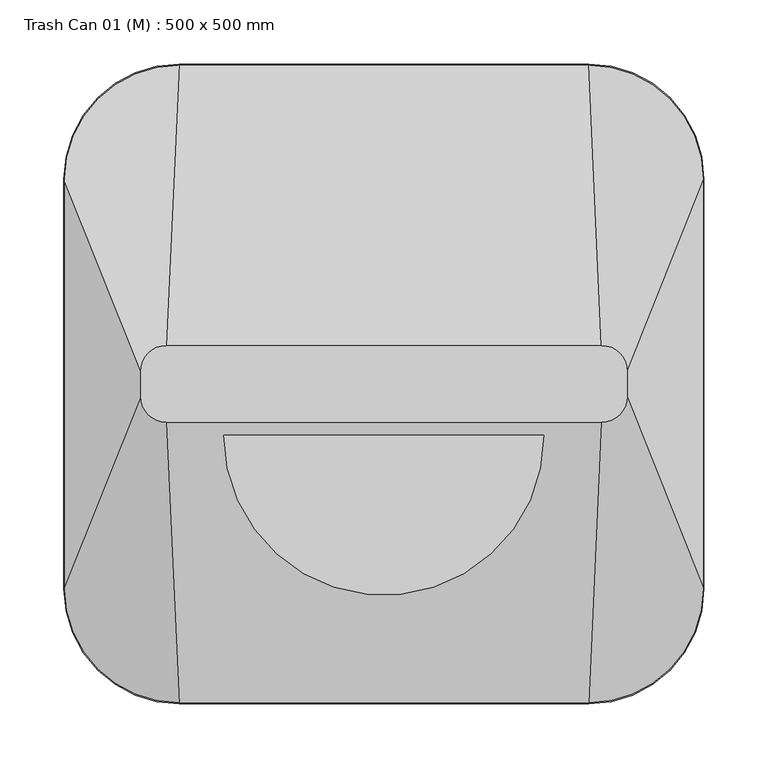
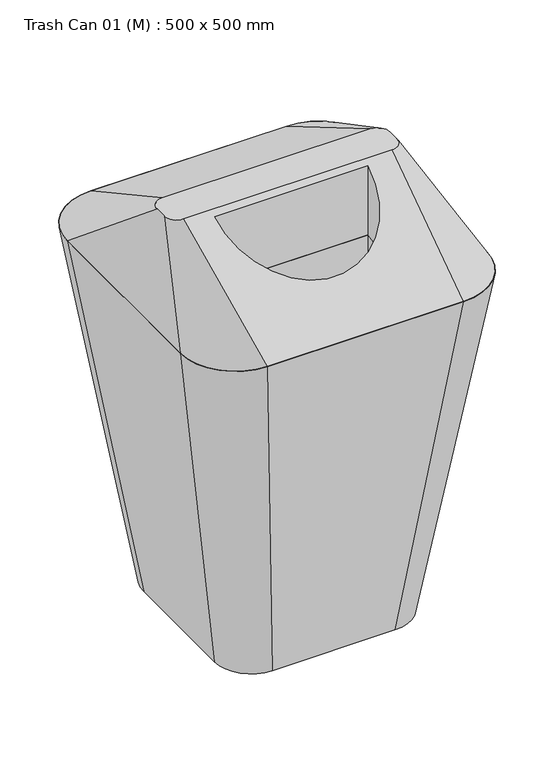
"""IFC4 building model written with IfcOpenShell, lengths in millimetres: proxy geometry, Trash Can 01 (M) : 500 x 500 mm."""

from ifc_helpers import new_model, si_unit, frame, origin, place, context, project, spatial, polyline, circle_curve, ellipse_curve, source, transform, mapped, element, save
from ifc_brep_helpers import plane_surface, revolved_surface, spline_surface, advanced_brep


def trash_can_01_m_500_x_500_mm_0c5a7a72(model_context):
    return source(origin(), model_context, "Body", "AdvancedBrep", [
        advanced_brep(
        [(160.0, 250.0, 600.0), (-160.0, 250.0, 600.0), (-250.0, 160.0, 600.0), (-250.0, -160.0, 600.0), (-160.0, -250.0, 600.0), (160.0, -250.0, 600.0), (250.0, -160.0, 600.0), (250.0, 160.0, 600.0), (-125.0, -40.0, 600.0), (125.0, -40.0, 600.0), (100.0, 160.0, 0.0), (160.0, 100.0, 0.0), (160.0, -100.0, 0.0), (100.0, -160.0, 0.0), (-100.0, -160.0, 0.0), (-160.0, -100.0, 0.0), (-160.0, 100.0, 0.0), (-100.0, 160.0, 0.0), (-125.0, -40.0, 100.0), (125.0, -40.0, 100.0)],
        [
            (0, 1),
            (1, 2, circle_curve(frame((-160.0, 160.0, 600.0), z_axis=(0.0, 0.0, 1.0), x_axis=(1.0, 0.0, 0.0)), 90.0)),
            (2, 3),
            (3, 4, circle_curve(frame((-160.0, -160.0, 600.0), z_axis=(0.0, 0.0, 1.0), x_axis=(1.0, 0.0, 0.0)), 90.0)),
            (4, 5),
            (5, 6, circle_curve(frame((160.0, -160.0, 600.0), z_axis=(0.0, 0.0, 1.0), x_axis=(-1.0, 0.0, 0.0)), 90.0)),
            (6, 7),
            (7, 0, circle_curve(frame((160.0, 160.0, 600.0), z_axis=(0.0, 0.0, 1.0), x_axis=(-1.0, 0.0, 0.0)), 90.0)),
            (8, 9),
            (9, 8, circle_curve(frame((0.0, -40.0, 600.0), z_axis=(0.0, 0.0, -1.0), x_axis=(1.0, 0.0, 0.0)), 125.0)),
            (10, 11, circle_curve(frame((100.0, 100.0, 0.0), z_axis=(0.0, 0.0, -1.0), x_axis=(-1.0, 0.0, 0.0)), 60.0)),
            (11, 12),
            (12, 13, circle_curve(frame((100.0, -100.0, 0.0), z_axis=(0.0, 0.0, -1.0), x_axis=(-1.0, 0.0, 0.0)), 60.0)),
            (13, 14),
            (14, 15, circle_curve(frame((-100.0, -100.0, 0.0), z_axis=(0.0, 0.0, -1.0), x_axis=(1.0, 0.0, 0.0)), 60.0)),
            (15, 16),
            (16, 17, circle_curve(frame((-100.0, 100.0, 0.0), z_axis=(0.0, 0.0, -1.0), x_axis=(1.0, 0.0, 0.0)), 60.0)),
            (17, 10),
            (0, 10),
            (17, 1),
            (16, 2),
            (15, 3),
            (14, 4),
            (13, 5),
            (12, 6),
            (11, 7),
            (18, 19, circle_curve(frame((0.0, -40.0, 100.0), z_axis=(0.0, 0.0, 1.0), x_axis=(1.0, 0.0, 0.0)), 125.0)),
            (19, 18),
            (19, 9),
            (8, 18),
        ],
        [
            plane_surface(frame((0.0, 0.0, 600.0), z_axis=(0.0, 0.0, 1.0), x_axis=(-1.0, 0.0, 0.0))),
            plane_surface(frame((0.0, 0.0, 0.0), z_axis=(0.0, 0.0, -1.0), x_axis=(-1.0, 0.0, 0.0))),
            plane_surface(frame((0.0, 160.0, 0.0), z_axis=(0.0, 0.9889363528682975, -0.14834045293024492), x_axis=(-1.0, 0.0, 0.0))),
            spline_surface(2, 1, [[(-100.0, 160.0, 0.0), (-160.0, 250.0, 600.0)], [(-160.0, 160.0, 0.0), (-250.0, 250.0, 600.0)], [(-160.0, 100.0, 0.0), (-250.0, 160.0, 600.0)]], [3, 3], [2, 2], [0.0, 1.0], [0.0, 1.0], weights=[[1.0, 1.0], [0.7071067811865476, 0.7071067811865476], [1.0, 1.0]]),
            plane_surface(frame((-160.0, 0.0, 0.0), z_axis=(-0.9889363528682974, 0.0, -0.1483404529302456), x_axis=(0.0, -1.0, 0.0))),
            spline_surface(2, 1, [[(-160.0, -100.0, 0.0), (-250.0, -160.0, 600.0)], [(-160.0, -160.0, 0.0), (-250.0, -250.0, 600.0)], [(-100.0, -160.0, 0.0), (-160.0, -250.0, 600.0)]], [3, 3], [2, 2], [0.0, 1.0], [0.0, 1.0], weights=[[1.0, 1.0], [0.7071067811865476, 0.7071067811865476], [1.0, 1.0]]),
            plane_surface(frame((0.0, -160.0, 0.0), z_axis=(0.0, -0.9889363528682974, -0.1483404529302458), x_axis=(1.0, 0.0, 0.0))),
            spline_surface(2, 1, [[(100.0, -160.0, 0.0), (160.0, -250.0, 600.0)], [(160.0, -160.0, 0.0), (250.0, -250.0, 600.0)], [(160.0, -100.0, 0.0), (250.0, -160.0, 600.0)]], [3, 3], [2, 2], [0.0, 1.0], [0.0, 1.0], weights=[[1.0, 1.0], [0.7071067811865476, 0.7071067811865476], [1.0, 1.0]]),
            plane_surface(frame((160.0, 0.0, 0.0), z_axis=(0.9889363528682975, 0.0, -0.14834045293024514), x_axis=(0.0, 1.0, 0.0))),
            spline_surface(2, 1, [[(160.0, 100.0, 0.0), (250.0, 160.0, 600.0)], [(160.0, 160.0, 0.0), (250.0, 250.0, 600.0)], [(100.0, 160.0, 0.0), (160.0, 250.0, 600.0)]], [3, 3], [2, 2], [0.0, 1.0], [0.0, 1.0], weights=[[1.0, 1.0], [0.7071067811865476, 0.7071067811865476], [1.0, 1.0]]),
            plane_surface(frame((0.0, -40.0, 100.0), z_axis=(0.0, 0.0, 1.0), x_axis=(1.0, 0.0, 0.0))),
            plane_surface(frame((-125.0, -40.0, 100.0), z_axis=(0.0, -1.0, 0.0), x_axis=(0.0, 0.0, 1.0))),
            revolved_surface(polyline([(125.0, -40.0, 100.0), (125.0, -40.0, 600.0)]), (0.0, -40.0, 725.0), (0.0, 0.0, -1.0)),
        ],
        [
            (0, [[1, 2, 3, 4, 5, 6, 7, 8], [9, 10]]),
            (1, [[11, 12, 13, 14, 15, 16, 17, 18]]),
            (2, [[-1, 19, -18, 20]]),
            (3, [[-2, -20, -17, 21]]),
            (4, [[-3, -21, -16, 22]]),
            (5, [[-4, -22, -15, 23]]),
            (6, [[-5, -23, -14, 24]]),
            (7, [[-6, -24, -13, 25]]),
            (8, [[-7, -25, -12, 26]]),
            (9, [[-8, -26, -11, -19]]),
            (10, [[27, 28]]),
            (11, [[-28, 29, -9, 30]]),
            (12, [[-27, -30, -10, -29]]),
        ],
    ),
        advanced_brep(
        [(-170.0, 30.0, 725.0), (-190.0, 10.0, 725.0), (-190.0, -10.0, 725.0), (-170.0, -30.0, 725.0), (170.0, -30.0, 725.0), (190.0, -10.0, 725.0), (190.0, 10.0, 725.0), (170.0, 30.0, 725.0), (-160.0, 250.0, 600.0), (160.0, 250.0, 600.0), (250.0, 160.0, 600.0), (250.0, -160.0, 600.0), (160.0, -250.0, 600.0), (-160.0, -250.0, 600.0), (-250.0, -160.0, 600.0), (-250.0, 160.0, 600.0), (125.0, -40.0, 600.0), (-125.0, -40.0, 600.0), (-125.0, -40.0, 719.3181818), (125.0, -40.0, 719.3181818)],
        [
            (0, 1, circle_curve(frame((-170.0, 10.0, 725.0), z_axis=(0.0, 0.0, 1.0), x_axis=(1.0, 0.0, 0.0)), 20.0)),
            (1, 2),
            (2, 3, circle_curve(frame((-170.0, -10.0, 725.0), z_axis=(0.0, 0.0, 1.0), x_axis=(1.0, 0.0, 0.0)), 20.0)),
            (3, 4),
            (4, 5, circle_curve(frame((170.0, -10.0, 725.0), z_axis=(0.0, 0.0, 1.0), x_axis=(-1.0, 0.0, 0.0)), 20.0)),
            (5, 6),
            (6, 7, circle_curve(frame((170.0, 10.0, 725.0), z_axis=(0.0, 0.0, 1.0), x_axis=(-1.0, 0.0, 0.0)), 20.0)),
            (7, 0),
            (8, 9),
            (9, 10, circle_curve(frame((160.0, 160.0, 600.0), z_axis=(0.0, 0.0, -1.0), x_axis=(0.0, 1.0, 0.0)), 90.0)),
            (10, 11),
            (11, 12, circle_curve(frame((160.0, -160.0, 600.0), z_axis=(0.0, 0.0, -1.0), x_axis=(1.0, 0.0, 0.0)), 90.0)),
            (12, 13),
            (13, 14, circle_curve(frame((-160.0, -160.0, 600.0), z_axis=(0.0, 0.0, -1.0), x_axis=(0.0, -1.0, 0.0)), 90.0)),
            (14, 15),
            (15, 8, circle_curve(frame((-160.0, 160.0, 600.0), z_axis=(0.0, 0.0, -1.0), x_axis=(-1.0, 0.0, 0.0)), 90.0)),
            (16, 17),
            (17, 16, circle_curve(frame((0.0, -40.0, 600.0), z_axis=(0.0, 0.0, 1.0), x_axis=(1.0, 0.0, 0.0)), 125.0)),
            (0, 8),
            (15, 1),
            (14, 2),
            (13, 3),
            (12, 4),
            (18, 19),
            (19, 18, ellipse_curve(frame((0.0, -40.0, 719.3181818), z_axis=(0.0, 0.4940094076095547, -0.8694565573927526), x_axis=(0.0, -0.8694565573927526, -0.49400940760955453)), 143.7679651, 125.0)),
            (11, 5),
            (10, 6),
            (9, 7),
            (18, 17),
            (16, 19),
        ],
        [
            plane_surface(frame((0.0, 0.0, 725.0), z_axis=(0.0, 0.0, 1.0), x_axis=(-1.0, 0.0, 0.0))),
            plane_surface(frame((0.0, 0.0, 600.0), z_axis=(0.0, 0.0, -1.0), x_axis=(-1.0, 0.0, 0.0))),
            spline_surface(2, 1, [[(-160.0, 250.0, 600.0), (-170.0, 30.0, 725.0)], [(-250.0, 250.0, 600.0), (-190.0, 30.0, 725.0)], [(-250.0, 160.0, 600.0), (-190.0, 10.0, 725.0)]], [3, 3], [2, 2], [0.0, 1.0], [0.0, 1.0], weights=[[1.0, 1.0], [0.7071067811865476, 0.7071067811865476], [1.0, 1.0]]),
            plane_surface(frame((-250.0, 0.0, 600.0), z_axis=(-0.901523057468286, 0.0, 0.4327310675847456), x_axis=(0.0, -1.0, 0.0))),
            spline_surface(2, 1, [[(-250.0, -160.0, 600.0), (-190.0, -10.0, 725.0)], [(-250.0, -250.0, 600.0), (-190.0, -30.0, 725.0)], [(-160.0, -250.0, 600.0), (-170.0, -30.0, 725.0)]], [3, 3], [2, 2], [0.0, 1.0], [0.0, 1.0], weights=[[1.0, 1.0], [0.7071067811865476, 0.7071067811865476], [1.0, 1.0]]),
            plane_surface(frame((0.0, -250.0, 600.0), z_axis=(0.0, -0.4940094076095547, 0.8694565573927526), x_axis=(1.0, 0.0, 0.0))),
            spline_surface(2, 1, [[(160.0, -250.0, 600.0), (170.0, -30.0, 725.0)], [(250.0, -250.0, 600.0), (190.0, -30.0, 725.0)], [(250.0, -160.0, 600.0), (190.0, -10.0, 725.0)]], [3, 3], [2, 2], [0.0, 1.0], [0.0, 1.0], weights=[[1.0, 1.0], [0.7071067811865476, 0.7071067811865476], [1.0, 1.0]]),
            plane_surface(frame((250.0, 0.0, 600.0), z_axis=(0.901523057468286, 0.0, 0.4327310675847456), x_axis=(0.0, 1.0, 0.0))),
            spline_surface(2, 1, [[(250.0, 160.0, 600.0), (190.0, 10.0, 725.0)], [(250.0, 250.0, 600.0), (190.0, 30.0, 725.0)], [(160.0, 250.0, 600.0), (170.0, 30.0, 725.0)]], [3, 3], [2, 2], [0.0, 1.0], [0.0, 1.0], weights=[[1.0, 1.0], [0.7071067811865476, 0.7071067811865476], [1.0, 1.0]]),
            plane_surface(frame((0.0, 250.0, 600.0), z_axis=(0.0, 0.4940094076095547, 0.8694565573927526), x_axis=(-1.0, 0.0, 0.0))),
            plane_surface(frame((-125.0, -40.0, 100.0), z_axis=(0.0, -1.0, 0.0), x_axis=(0.0, 0.0, 1.0))),
            revolved_surface(polyline([(125.0, -40.0, 600.0), (125.0, -40.0, 790.3409090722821)]), (0.0, -40.0, 725.0), (0.0, 0.0, -1.0)),
        ],
        [
            (0, [[1, 2, 3, 4, 5, 6, 7, 8]]),
            (1, [[9, 10, 11, 12, 13, 14, 15, 16], [17, 18]]),
            (2, [[-1, 19, -16, 20]]),
            (3, [[-2, -20, -15, 21]]),
            (4, [[-3, -21, -14, 22]]),
            (5, [[-4, -22, -13, 23], [24, 25]]),
            (6, [[-5, -23, -12, 26]]),
            (7, [[-6, -26, -11, 27]]),
            (8, [[-7, -27, -10, 28]]),
            (9, [[-8, -28, -9, -19]]),
            (10, [[29, -17, 30, -24]]),
            (11, [[-29, -25, -30, -18]]),
        ],
    ),
    ])


if __name__ == "__main__":
    model = new_model("IFC4")
    model_context = context("Model", 3, world=origin())
    ifc_project = project(units=[si_unit("LENGTHUNIT", "METRE", prefix="MILLI")], contexts=[model_context])
    site = spatial("IfcSite", under=ifc_project)
    building = spatial("IfcBuilding", under=site)
    placement = place(None, origin())
    trash_can_01_m_500_x_500_mm_shape = trash_can_01_m_500_x_500_mm_0c5a7a72(model_context)
    element("IfcBuildingElementProxy", 1, Name="Trash Can 01 (M) : 500 x 500 mm", ObjectType="Trash Can 01 (M) : 500 x 500 mm", at=placement, inside=building, context=model_context, shape_type="MappedRepresentation", body=[
        mapped(trash_can_01_m_500_x_500_mm_shape, transform((0.0, 0.0, 0.0), x_axis=(1.0, 0.0, 0.0), y_axis=(0.0, 1.0, 0.0), z_axis=(0.0, 0.0, 1.0))),
    ])
    save(model, "model.ifc")
